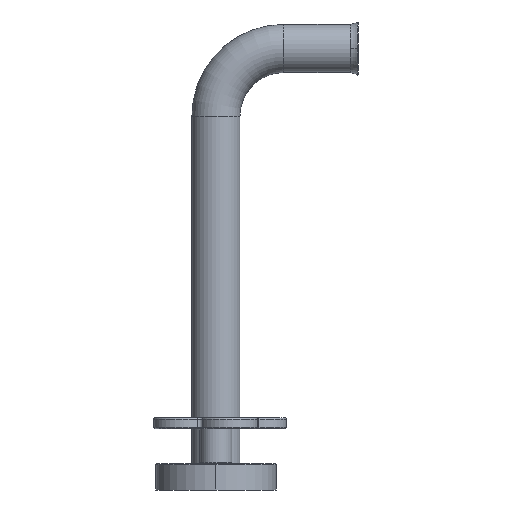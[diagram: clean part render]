
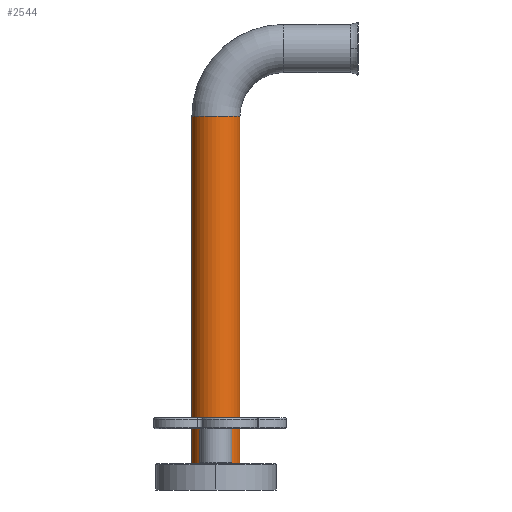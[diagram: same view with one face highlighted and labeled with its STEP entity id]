
A CAD part, left-side view. The second image highlights one B-rep face of the part: STEP entity #2544.
In plain terms, the highlighted cylindrical face has radius 12 mm (diameter 24 mm), a partial arc.
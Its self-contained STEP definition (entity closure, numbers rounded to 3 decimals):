
#807=DIRECTION('',(0.,0.,-1.));
#808=VECTOR('',#807,175.665);
#809=CARTESIAN_POINT('',(100.,12.,236.95));
#810=LINE('',#809,#808);
#811=CARTESIAN_POINT('',(100.,0.,61.285));
#812=DIRECTION('',(0.,0.,-1.));
#813=DIRECTION('',(-1.,0.,0.));
#814=AXIS2_PLACEMENT_3D('',#811,#812,#813);
#816=CARTESIAN_POINT('',(100.,0.,236.95));
#817=DIRECTION('',(0.,0.,-1.));
#818=DIRECTION('',(0.,-1.,0.));
#819=AXIS2_PLACEMENT_3D('',#816,#817,#818);
#821=DIRECTION('',(0.,0.,-1.));
#822=VECTOR('',#821,175.665);
#823=CARTESIAN_POINT('',(100.,-12.,236.95));
#824=LINE('',#823,#822);
#825=CARTESIAN_POINT('',(100.,0.,61.285));
#826=DIRECTION('',(0.,0.,-1.));
#827=DIRECTION('',(0.,-1.,0.));
#828=AXIS2_PLACEMENT_3D('',#825,#826,#827);
#1068=CARTESIAN_POINT('',(100.,-12.,236.95));
#1069=CARTESIAN_POINT('',(100.,12.,236.95));
#1070=VERTEX_POINT('',#1068);
#1071=VERTEX_POINT('',#1069);
#1304=CARTESIAN_POINT('',(88.,0.,61.285));
#1305=CARTESIAN_POINT('',(100.,12.,61.285));
#1306=VERTEX_POINT('',#1304);
#1307=VERTEX_POINT('',#1305);
#1308=CARTESIAN_POINT('',(100.,-12.,61.285));
#1309=VERTEX_POINT('',#1308);
#2531=CARTESIAN_POINT('',(100.,0.,236.95));
#2532=DIRECTION('',(0.,0.,-1.));
#2533=DIRECTION('',(0.,-1.,0.));
#2534=AXIS2_PLACEMENT_3D('',#2531,#2532,#2533);
#2535=CYLINDRICAL_SURFACE('',#2534,12.);
#2536=ORIENTED_EDGE('',*,*,#2512,.T.);
#2537=ORIENTED_EDGE('',*,*,#2495,.F.);
#2538=ORIENTED_EDGE('',*,*,#2449,.F.);
#2539=ORIENTED_EDGE('',*,*,#2492,.T.);
#2541=ORIENTED_EDGE('',*,*,#2540,.T.);
#2542=EDGE_LOOP('',(#2536,#2537,#2538,#2539,#2541));
#2543=FACE_OUTER_BOUND('',#2542,.F.);
#815=CIRCLE('',#814,12.);
#820=CIRCLE('',#819,12.);
#829=CIRCLE('',#828,12.);
#2449=EDGE_CURVE('',#1070,#1071,#820,.T.);
#2492=EDGE_CURVE('',#1070,#1309,#824,.T.);
#2495=EDGE_CURVE('',#1071,#1307,#810,.T.);
#2512=EDGE_CURVE('',#1306,#1307,#815,.T.);
#2540=EDGE_CURVE('',#1309,#1306,#829,.T.);
#2544=ADVANCED_FACE('',(#2543),#2535,.T.);
